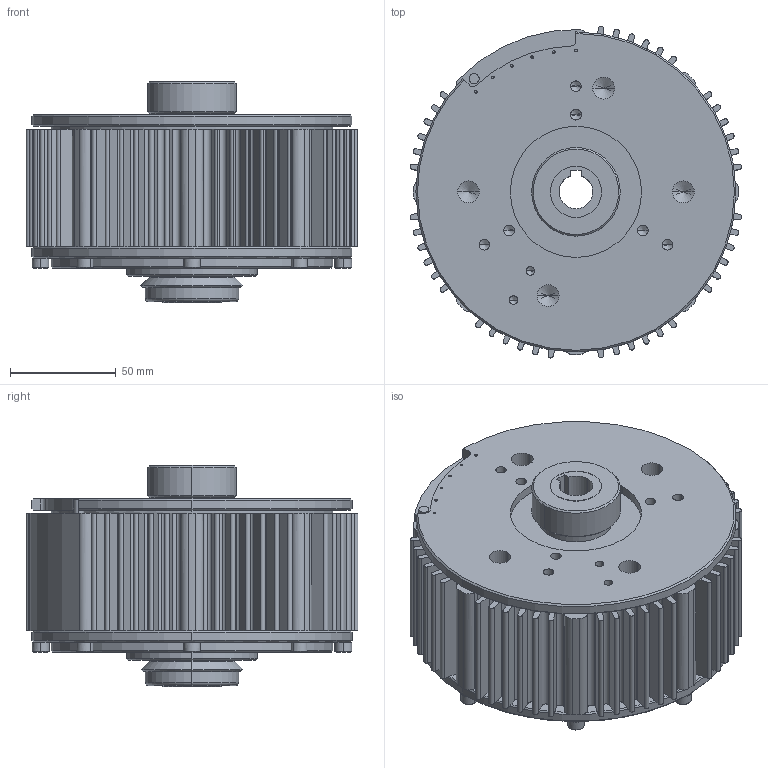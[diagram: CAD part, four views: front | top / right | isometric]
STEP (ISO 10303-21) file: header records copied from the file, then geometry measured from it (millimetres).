
FILE_DESCRIPTION (( 'STEP AP214' ), '1' );
FILE_NAME ('MTL70-16mm CUSTOMER SOLID.STEP', '2015-04-06T15:37:12', ( '' ), ( '' ), 'SwSTEP 2.0', 'SolidWorks 2014', '' );
FILE_SCHEMA (( 'AUTOMOTIVE_DESIGN' ));
Length unit declared in the file: inch
Products named in the file (1): MTL70-16mm CUSTOMER SOLID
Bounding box: 156.93 x 156.93 x 104.65 mm (x, y, z)
Volume: 1253192.6 mm3; surface area: 138092.7 mm2
Topology: 1 solids, 1 shells, 624 faces, 1643 edges, 1006 vertices
Faces by surface type: cylinder 302, plane 236, cone 82, torus 4
Entity records: 19539 total; most frequent: DIRECTION 3677, CARTESIAN_POINT 3234, ORIENTED_EDGE 3206, EDGE_CURVE 1603, AXIS2_PLACEMENT_3D 1449, VERTEX_POINT 1006, CIRCLE 824, LINE 779
